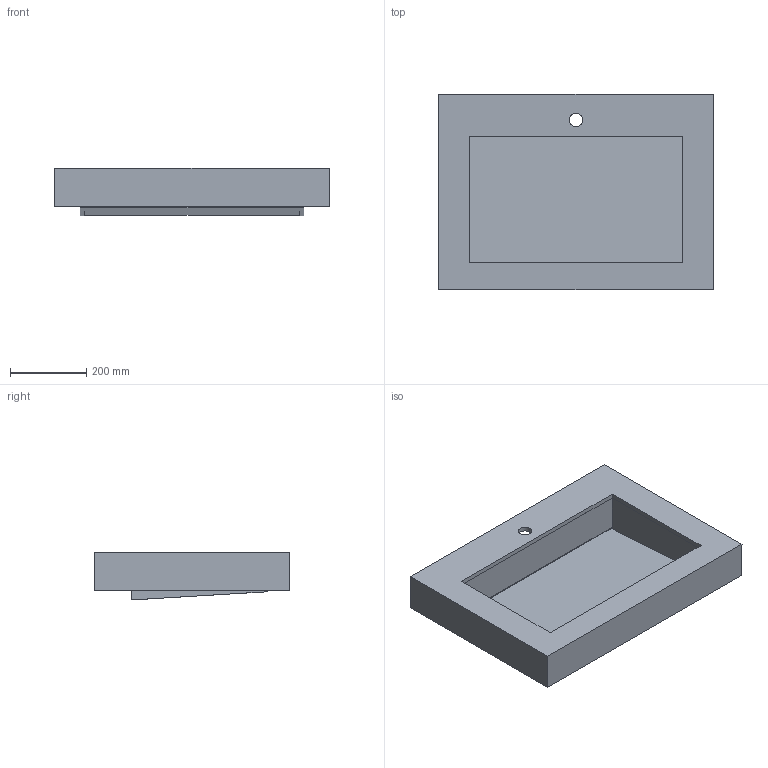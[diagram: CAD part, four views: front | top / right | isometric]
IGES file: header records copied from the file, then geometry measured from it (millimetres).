
Start section: Data from Parasolid IGES Translator 19.0.9, Copyright(c) 2006 Siemens PL M Software. All Rights Reserved.
Global section: file name: noorth-top-H 10 D 51,3 W 72_4964.igs; native system: By Siemens PLM Incorporated; preprocessor: XPlus GENERIC/IGES 19.0.9; author: Noname; organization: Noname; date: 20200603.113745; units: metre
Bounding box: 720 x 512 x 125.73 mm (x, y, z)
Volume: 8679312.2 mm3; surface area: 1485252.3 mm2
Topology: 2 solids, 2 shells, 34 faces, 93 edges, 62 vertices
Faces by surface type: plane 33, cylinder 1
Full cylindrical faces by diameter (mm): 34.9 x1
